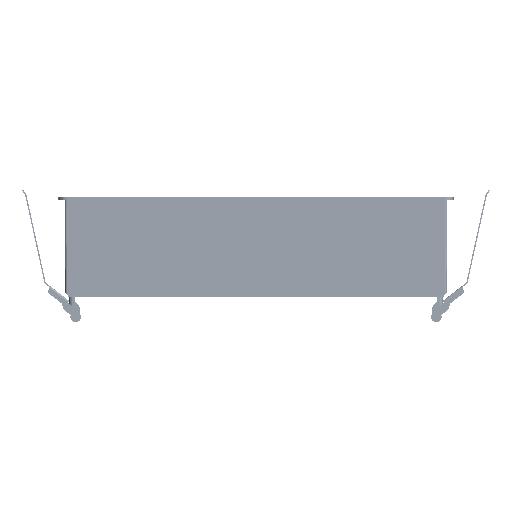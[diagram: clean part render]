
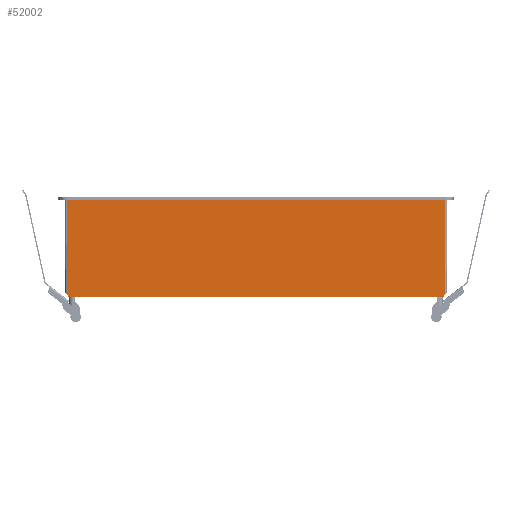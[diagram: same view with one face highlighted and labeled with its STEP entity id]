
A CAD part, front view. The second image highlights one B-rep face of the part: STEP entity #52002.
In plain terms, the highlighted planar face has unit normal (0, -1, -0.006).
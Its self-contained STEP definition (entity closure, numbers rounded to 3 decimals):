
#6436=PLANE('',#57906);
#9468=FACE_OUTER_BOUND('',#12697,.T.);
#12697=EDGE_LOOP('',(#47866,#47867,#47868,#47869,#47870,#47871));
#14810=LINE('',#165027,#17046);
#14826=LINE('',#165071,#17062);
#14831=LINE('',#165093,#17067);
#14864=LINE('',#165210,#17100);
#14890=LINE('',#165282,#17126);
#14891=LINE('',#165284,#17127);
#17046=VECTOR('',#70645,10.);
#17062=VECTOR('',#70683,10.);
#17067=VECTOR('',#70706,10.);
#17100=VECTOR('',#70833,10.);
#17126=VECTOR('',#70915,10.);
#17127=VECTOR('',#70918,10.);
#24693=VERTEX_POINT('',#165024);
#24694=VERTEX_POINT('',#165026);
#24710=VERTEX_POINT('',#165068);
#24711=VERTEX_POINT('',#165070);
#24719=VERTEX_POINT('',#165092);
#24756=VERTEX_POINT('',#165209);
#32372=EDGE_CURVE('',#24694,#24693,#14810,.T.);
#32394=EDGE_CURVE('',#24711,#24710,#14826,.T.);
#32405=EDGE_CURVE('',#24711,#24719,#14831,.T.);
#32463=EDGE_CURVE('',#24756,#24719,#14864,.T.);
#32500=EDGE_CURVE('',#24756,#24693,#14890,.T.);
#32501=EDGE_CURVE('',#24710,#24694,#14891,.F.);
#47866=ORIENTED_EDGE('',*,*,#32372,.T.);
#47867=ORIENTED_EDGE('',*,*,#32500,.F.);
#47868=ORIENTED_EDGE('',*,*,#32463,.T.);
#47869=ORIENTED_EDGE('',*,*,#32405,.F.);
#47870=ORIENTED_EDGE('',*,*,#32394,.T.);
#47871=ORIENTED_EDGE('',*,*,#32501,.T.);
#52002=ADVANCED_FACE('',(#9468),#6436,.T.);
#57906=AXIS2_PLACEMENT_3D('',#165283,#70916,#70917);
#70645=DIRECTION('',(0.643,-0.005,0.766));
#70683=DIRECTION('',(0.643,0.005,-0.766));
#70706=DIRECTION('',(0.,-0.006,1.));
#70833=DIRECTION('',(-1.,0.,0.));
#70915=DIRECTION('',(0.,0.006,-1.));
#70916=DIRECTION('center_axis',(0.,-1.,-0.006));
#70917=DIRECTION('ref_axis',(1.,0.,0.));
#70918=DIRECTION('',(-1.,0.,0.));
#165024=CARTESIAN_POINT('',(150.397,-18.984,1.756));
#165026=CARTESIAN_POINT('',(148.923,-18.974,0.));
#165027=CARTESIAN_POINT('',(88.158,-18.531,-72.417));
#165068=CARTESIAN_POINT('',(-148.923,-18.974,0.));
#165070=CARTESIAN_POINT('',(-150.397,-18.984,1.756));
#165071=CARTESIAN_POINT('',(-151.124,-18.99,2.622));
#165092=CARTESIAN_POINT('',(-150.397,-19.447,77.5));
#165093=CARTESIAN_POINT('',(-150.397,-18.974,0.001));
#165209=CARTESIAN_POINT('',(150.397,-19.447,77.5));
#165210=CARTESIAN_POINT('',(-76.199,-19.447,77.5));
#165282=CARTESIAN_POINT('',(150.397,-18.974,0.001));
#165283=CARTESIAN_POINT('Origin',(-152.397,-18.974,0.001));
#165284=CARTESIAN_POINT('',(-76.199,-18.974,0.));
